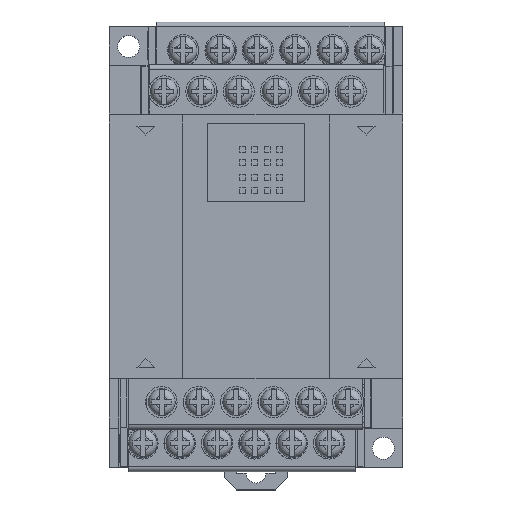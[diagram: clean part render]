
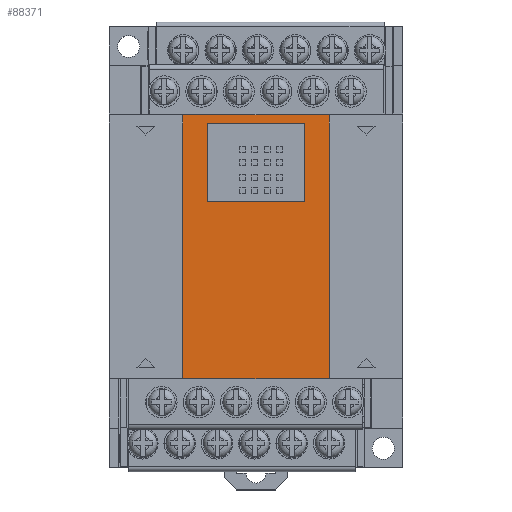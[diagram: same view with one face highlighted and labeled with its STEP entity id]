
A CAD part, top view. The second image highlights one B-rep face of the part: STEP entity #88371.
In plain terms, the highlighted planar face has unit normal (0, 0, 1).
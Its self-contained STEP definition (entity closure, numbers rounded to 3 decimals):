
#25497 = CARTESIAN_POINT ( 'NONE',  ( 15., 26.9, 79. ) ) ;
#25498 = DIRECTION ( 'NONE',  ( -1., 0., 0. ) ) ;
#25499 = VECTOR ( 'NONE', #25498, 1000. ) ;
#25500 = CARTESIAN_POINT ( 'NONE',  ( -15., 26.9, 79. ) ) ;
#25501 = LINE ( 'NONE', #25500, #25499 ) ;
#25503 = CARTESIAN_POINT ( 'NONE',  ( -15., 26.9, 79. ) ) ;
#25723 = DIRECTION ( 'NONE',  ( 1., 0., 0. ) ) ;
#25724 = VECTOR ( 'NONE', #25723, 1000. ) ;
#25725 = CARTESIAN_POINT ( 'NONE',  ( -15., -26.9, 79. ) ) ;
#25732 = LINE ( 'NONE', #25725, #25724 ) ;
#25821 = CARTESIAN_POINT ( 'NONE',  ( 15., -26.9, 79. ) ) ;
#25832 = CARTESIAN_POINT ( 'NONE',  ( -15., -26.9, 79. ) ) ;
#31089 = DIRECTION ( 'NONE',  ( 0., -1., 0. ) ) ;
#31090 = VECTOR ( 'NONE', #31089, 1000. ) ;
#31091 = CARTESIAN_POINT ( 'NONE',  ( -15., 26.9, 79. ) ) ;
#31093 = LINE ( 'NONE', #31091, #31090 ) ;
#31247 = DIRECTION ( 'NONE',  ( 1., 0., 0. ) ) ;
#31248 = VECTOR ( 'NONE', #31247, 1000. ) ;
#31249 = CARTESIAN_POINT ( 'NONE',  ( -9.9, 9.2, 79. ) ) ;
#31250 = LINE ( 'NONE', #31249, #31248 ) ;
#31251 = CARTESIAN_POINT ( 'NONE',  ( 9.9, 9.2, 79. ) ) ;
#31252 = DIRECTION ( 'NONE',  ( 0., 1., 0. ) ) ;
#31253 = VECTOR ( 'NONE', #31252, 1000. ) ;
#31254 = CARTESIAN_POINT ( 'NONE',  ( 9.9, 25.2, 79. ) ) ;
#31255 = LINE ( 'NONE', #31254, #31253 ) ;
#31257 = CARTESIAN_POINT ( 'NONE',  ( 9.9, 25.2, 79. ) ) ;
#31258 = DIRECTION ( 'NONE',  ( -1., 0., 0. ) ) ;
#31259 = VECTOR ( 'NONE', #31258, 1000. ) ;
#31260 = CARTESIAN_POINT ( 'NONE',  ( -9.9, 25.2, 79. ) ) ;
#31261 = LINE ( 'NONE', #31260, #31259 ) ;
#31262 = CARTESIAN_POINT ( 'NONE',  ( -9.9, 9.2, 79. ) ) ;
#31263 = CARTESIAN_POINT ( 'NONE',  ( -9.9, 25.2, 79. ) ) ;
#31264 = DIRECTION ( 'NONE',  ( 0., -1., 0. ) ) ;
#31265 = VECTOR ( 'NONE', #31264, 1000. ) ;
#31266 = CARTESIAN_POINT ( 'NONE',  ( -9.9, 25.2, 79. ) ) ;
#31270 = LINE ( 'NONE', #31266, #31265 ) ;
#31271 = DIRECTION ( 'NONE',  ( 0., 0., 1. ) ) ;
#31273 = CARTESIAN_POINT ( 'NONE',  ( -15., -26.9, 79. ) ) ;
#31274 = AXIS2_PLACEMENT_3D ( 'NONE', #31273, #31271, #31334 ) ;
#31278 = PLANE ( 'NONE',  #31274 ) ;
#31294 = FACE_OUTER_BOUND ( 'NONE', #88347, .T. ) ;
#31295 = FACE_BOUND ( 'NONE', #88373, .T. ) ;
#31296 = DIRECTION ( 'NONE',  ( 0., 1., 0. ) ) ;
#31297 = VECTOR ( 'NONE', #31296, 1000. ) ;
#31298 = CARTESIAN_POINT ( 'NONE',  ( 15., 26.9, 79. ) ) ;
#31299 = LINE ( 'NONE', #31298, #31297 ) ;
#31334 = DIRECTION ( 'NONE',  ( 1., 0., 0. ) ) ;
#58910 = VERTEX_POINT ( 'NONE', #25503 ) ;
#58912 = EDGE_CURVE ( 'NONE', #58913, #58910, #25501, .T. ) ;
#58913 = VERTEX_POINT ( 'NONE', #25497 ) ;
#59049 = EDGE_CURVE ( 'NONE', #59090, #59101, #25732, .T. ) ;
#59090 = VERTEX_POINT ( 'NONE', #25832 ) ;
#59101 = VERTEX_POINT ( 'NONE', #25821 ) ;
#88141 = ORIENTED_EDGE ( 'NONE', *, *, #88328, .F. ) ;
#88247 = EDGE_CURVE ( 'NONE', #58910, #59090, #31093, .T. ) ;
#88299 = ORIENTED_EDGE ( 'NONE', *, *, #58912, .T. ) ;
#88328 = EDGE_CURVE ( 'NONE', #88330, #88332, #31270, .T. ) ;
#88330 = VERTEX_POINT ( 'NONE', #31263 ) ;
#88332 = VERTEX_POINT ( 'NONE', #31262 ) ;
#88335 = ORIENTED_EDGE ( 'NONE', *, *, #88336, .F. ) ;
#88336 = EDGE_CURVE ( 'NONE', #88337, #88330, #31261, .T. ) ;
#88337 = VERTEX_POINT ( 'NONE', #31257 ) ;
#88338 = ORIENTED_EDGE ( 'NONE', *, *, #88340, .F. ) ;
#88340 = EDGE_CURVE ( 'NONE', #88342, #88337, #31255, .T. ) ;
#88342 = VERTEX_POINT ( 'NONE', #31251 ) ;
#88345 = ORIENTED_EDGE ( 'NONE', *, *, #88346, .F. ) ;
#88346 = EDGE_CURVE ( 'NONE', #88332, #88342, #31250, .T. ) ;
#88347 = EDGE_LOOP ( 'NONE', ( #88349, #88351, #88354, #88299 ) ) ;
#88349 = ORIENTED_EDGE ( 'NONE', *, *, #88247, .T. ) ;
#88351 = ORIENTED_EDGE ( 'NONE', *, *, #59049, .T. ) ;
#88354 = ORIENTED_EDGE ( 'NONE', *, *, #88370, .T. ) ;
#88370 = EDGE_CURVE ( 'NONE', #59101, #58913, #31299, .T. ) ;
#88371 = ADVANCED_FACE ( 'NONE', ( #31295, #31294 ), #31278, .T. ) ;
#88373 = EDGE_LOOP ( 'NONE', ( #88141, #88335, #88338, #88345 ) ) ;
